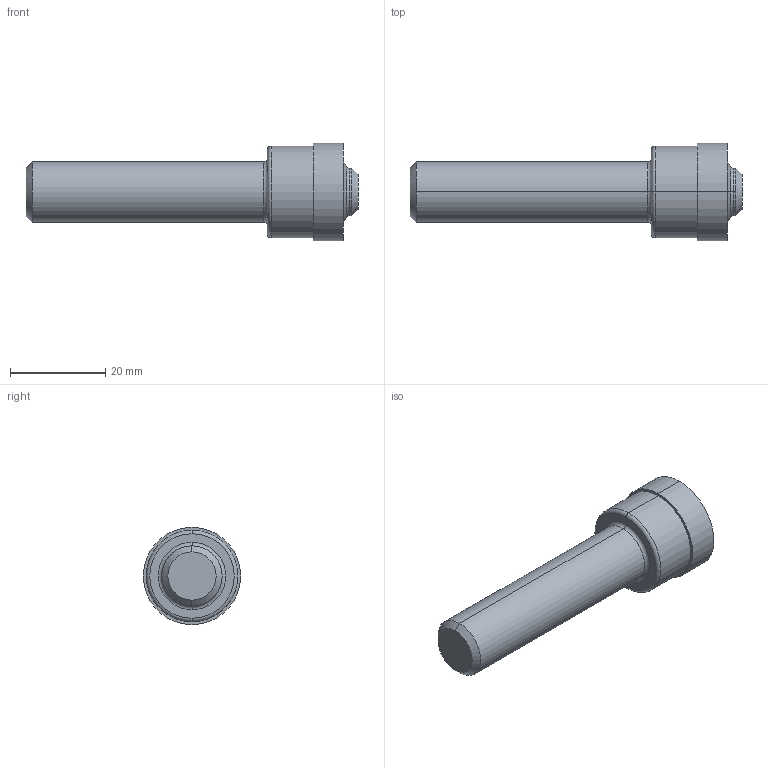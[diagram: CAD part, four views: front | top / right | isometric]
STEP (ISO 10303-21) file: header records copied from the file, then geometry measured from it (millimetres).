
FILE_DESCRIPTION (( 'STEP AP214' ), '1' );
FILE_NAME ('AS5202-03X.STEP', '2023-11-10T17:57:24', ( '' ), ( '' ), 'SwSTEP 2.0', 'SolidWorks 2022', '' );
FILE_SCHEMA (( 'AUTOMOTIVE_DESIGN' ));
Length unit declared in the file: inch
Products named in the file (1): AS5202-03X
Bounding box: 69.85 x 20.45 x 20.45 mm (x, y, z)
Volume: 11536.5 mm3; surface area: 3659.5 mm2
Topology: 1 solids, 1 shells, 25 faces, 48 edges, 28 vertices
Faces by surface type: cylinder 8, cone 6, torus 6, plane 5
Entity records: 680 total; most frequent: DIRECTION 134, CARTESIAN_POINT 102, ORIENTED_EDGE 96, AXIS2_PLACEMENT_3D 60, EDGE_CURVE 48, CIRCLE 34, VERTEX_POINT 28, EDGE_LOOP 28
